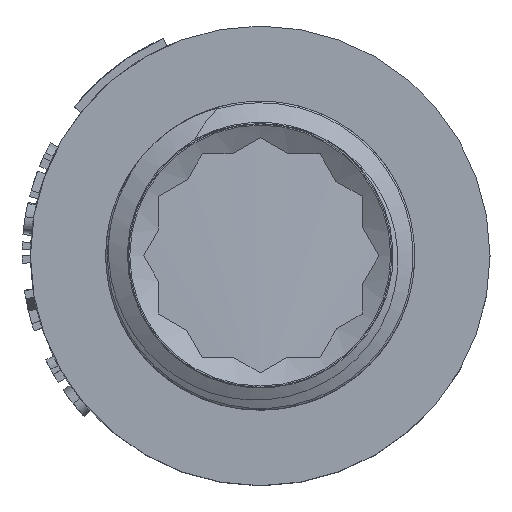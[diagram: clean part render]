
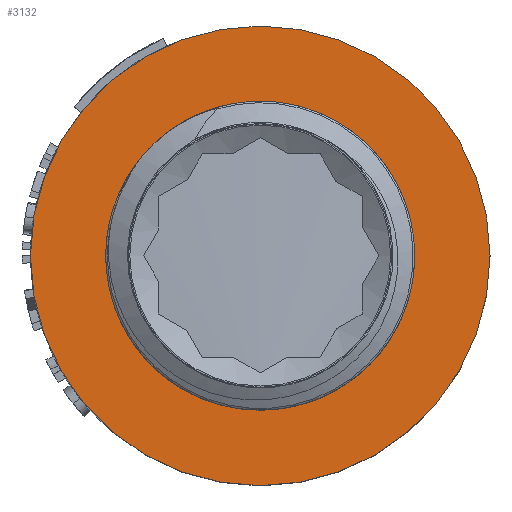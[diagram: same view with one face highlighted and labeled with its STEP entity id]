
A CAD part, top view. The second image highlights one B-rep face of the part: STEP entity #3132.
In plain terms, the highlighted planar face has unit normal (0, 0, 1).
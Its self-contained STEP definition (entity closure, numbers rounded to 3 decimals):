
#83=FACE_BOUND('',#669,.T.);
#476=FACE_OUTER_BOUND('',#668,.T.);
#668=EDGE_LOOP('',(#2736,#2737));
#669=EDGE_LOOP('',(#2738,#2739));
#1085=CIRCLE('',#3225,13.65);
#1086=CIRCLE('',#3226,13.65);
#1135=CIRCLE('',#3322,7.825);
#1138=CIRCLE('',#3325,7.825);
#1209=VERTEX_POINT('',#4268);
#1210=VERTEX_POINT('',#4269);
#1363=VERTEX_POINT('',#5857);
#1364=VERTEX_POINT('',#5858);
#1549=EDGE_CURVE('',#1209,#1210,#1085,.T.);
#1550=EDGE_CURVE('',#1210,#1209,#1086,.T.);
#1779=EDGE_CURVE('',#1363,#1364,#1135,.T.);
#1783=EDGE_CURVE('',#1364,#1363,#1138,.T.);
#2736=ORIENTED_EDGE('',*,*,#1549,.T.);
#2737=ORIENTED_EDGE('',*,*,#1550,.T.);
#2738=ORIENTED_EDGE('',*,*,#1779,.F.);
#2739=ORIENTED_EDGE('',*,*,#1783,.F.);
#2983=PLANE('',#3374);
#3132=ADVANCED_FACE('',(#476,#83),#2983,.T.);
#3225=AXIS2_PLACEMENT_3D('',#4270,#3522,#3523);
#3226=AXIS2_PLACEMENT_3D('',#4271,#3524,#3525);
#3322=AXIS2_PLACEMENT_3D('',#5859,#3818,#3819);
#3325=AXIS2_PLACEMENT_3D('',#5865,#3825,#3826);
#3374=AXIS2_PLACEMENT_3D('',#6149,#3952,#3953);
#3522=DIRECTION('center_axis',(0.,0.,1.));
#3523=DIRECTION('ref_axis',(1.,0.,0.));
#3524=DIRECTION('center_axis',(0.,0.,1.));
#3525=DIRECTION('ref_axis',(1.,0.,0.));
#3818=DIRECTION('center_axis',(0.,0.,1.));
#3819=DIRECTION('ref_axis',(1.,0.,0.));
#3825=DIRECTION('center_axis',(0.,0.,1.));
#3826=DIRECTION('ref_axis',(1.,0.,0.));
#3952=DIRECTION('center_axis',(0.,0.,1.));
#3953=DIRECTION('ref_axis',(1.,0.,0.));
#4268=CARTESIAN_POINT('',(0.,-13.671,9.993));
#4269=CARTESIAN_POINT('',(0.,13.629,9.993));
#4270=CARTESIAN_POINT('Origin',(0.,-0.021,9.993));
#4271=CARTESIAN_POINT('Origin',(0.,-0.021,9.993));
#5857=CARTESIAN_POINT('',(0.,7.804,9.993));
#5858=CARTESIAN_POINT('',(0.,-7.845,9.993));
#5859=CARTESIAN_POINT('Origin',(0.,-0.021,9.993));
#5865=CARTESIAN_POINT('Origin',(0.,-0.021,9.993));
#6149=CARTESIAN_POINT('Origin',(0.,-9.191,9.993));
